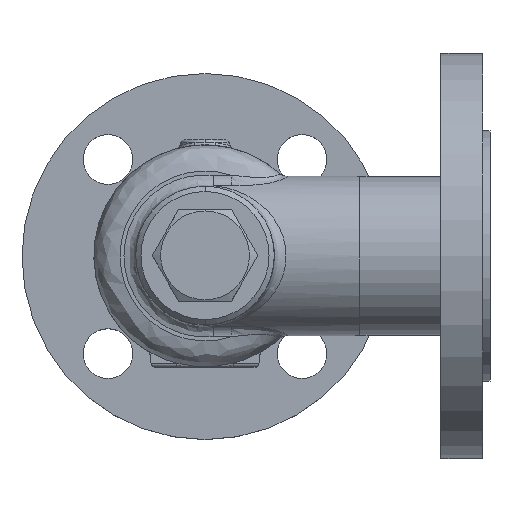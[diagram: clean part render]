
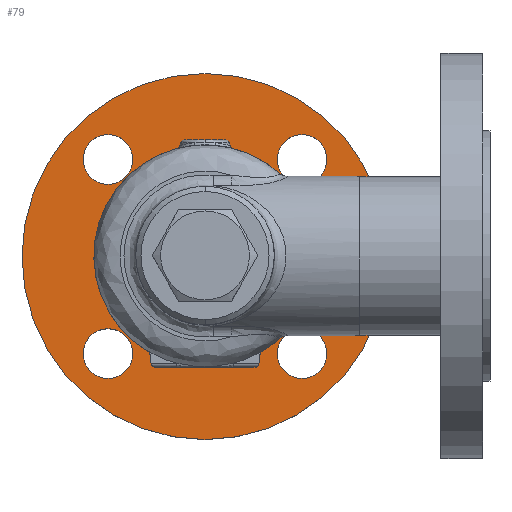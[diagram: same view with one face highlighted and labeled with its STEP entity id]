
A CAD part, top view. The second image highlights one B-rep face of the part: STEP entity #79.
In plain terms, the highlighted planar face has unit normal (0, 0, 1) as drawn and (0, 1, 0) by its records, which use the part's own axes.
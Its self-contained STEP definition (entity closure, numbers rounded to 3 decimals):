
#79=ADVANCED_FACE('',(#251,#252,#253,#254,#255,#256),#250,.T.);
#250=PLANE('',#1549);
#251=FACE_OUTER_BOUND('',#1550,.T.);
#252=FACE_BOUND('',#1551,.T.);
#253=FACE_BOUND('',#1552,.T.);
#254=FACE_BOUND('',#1553,.T.);
#255=FACE_BOUND('',#1554,.T.);
#256=FACE_BOUND('',#1555,.T.);
#1546=CARTESIAN_POINT('',(-131.244,-118.,-150.));
#1547=DIRECTION('',(0.,1.,0.));
#1548=DIRECTION('',(0.,0.,1.));
#1549=AXIS2_PLACEMENT_3D('',#1546,#1547,#1548);
#1550=EDGE_LOOP('',(#3613,#3614));
#1551=EDGE_LOOP('',(#3615,#3616));
#1552=EDGE_LOOP('',(#3617,#3618));
#1553=EDGE_LOOP('',(#3619,#3620));
#1554=EDGE_LOOP('',(#3621,#3622));
#1555=EDGE_LOOP('',(#3623,#3624));
#3613=ORIENTED_EDGE('',*,*,#4258,.T.);
#3614=ORIENTED_EDGE('',*,*,#4259,.T.);
#3615=ORIENTED_EDGE('',*,*,#4260,.F.);
#3616=ORIENTED_EDGE('',*,*,#4261,.F.);
#3617=ORIENTED_EDGE('',*,*,#4262,.F.);
#3618=ORIENTED_EDGE('',*,*,#4263,.F.);
#3619=ORIENTED_EDGE('',*,*,#4264,.F.);
#3620=ORIENTED_EDGE('',*,*,#4265,.F.);
#3621=ORIENTED_EDGE('',*,*,#4266,.F.);
#3622=ORIENTED_EDGE('',*,*,#4267,.F.);
#3623=ORIENTED_EDGE('',*,*,#4268,.F.);
#3624=ORIENTED_EDGE('',*,*,#4269,.F.);
#4258=EDGE_CURVE('',#4730,#4731,#4732,.T.);
#4259=EDGE_CURVE('',#4731,#4730,#4738,.T.);
#4260=EDGE_CURVE('',#4744,#4745,#4746,.T.);
#4261=EDGE_CURVE('',#4745,#4744,#4752,.T.);
#4262=EDGE_CURVE('',#4758,#4759,#4760,.T.);
#4263=EDGE_CURVE('',#4759,#4758,#4766,.T.);
#4264=EDGE_CURVE('',#4772,#4773,#4774,.T.);
#4265=EDGE_CURVE('',#4773,#4772,#4780,.T.);
#4266=EDGE_CURVE('',#4786,#4787,#4788,.T.);
#4267=EDGE_CURVE('',#4787,#4786,#4794,.T.);
#4268=EDGE_CURVE('',#4800,#4801,#4802,.T.);
#4269=EDGE_CURVE('',#4801,#4800,#4808,.T.);
#4730=VERTEX_POINT('',#6839);
#4731=VERTEX_POINT('',#6840);
#4732=CIRCLE('',#6844,70.);
#4738=CIRCLE('',#6848,70.);
#4744=VERTEX_POINT('',#6849);
#4745=VERTEX_POINT('',#6850);
#4746=CIRCLE('',#6854,9.5);
#4752=CIRCLE('',#6858,9.5);
#4758=VERTEX_POINT('',#6859);
#4759=VERTEX_POINT('',#6860);
#4760=CIRCLE('',#6864,9.5);
#4766=CIRCLE('',#6868,9.5);
#4772=VERTEX_POINT('',#6869);
#4773=VERTEX_POINT('',#6870);
#4774=CIRCLE('',#6874,9.5);
#4780=CIRCLE('',#6878,9.5);
#4786=VERTEX_POINT('',#6879);
#4787=VERTEX_POINT('',#6880);
#4788=CIRCLE('',#6884,9.5);
#4794=CIRCLE('',#6888,9.5);
#4800=VERTEX_POINT('',#6889);
#4801=VERTEX_POINT('',#6890);
#4802=CIRCLE('',#6894,24.3);
#4808=CIRCLE('',#6898,24.3);
#6839=CARTESIAN_POINT('',(0.,-118.,70.));
#6840=CARTESIAN_POINT('',(0.,-118.,-70.));
#6841=CARTESIAN_POINT('',(0.,-118.,0.));
#6842=DIRECTION('',(0.,1.,0.));
#6843=DIRECTION('',(0.,0.,1.));
#6844=AXIS2_PLACEMENT_3D('',#6841,#6842,#6843);
#6845=CARTESIAN_POINT('',(0.,-118.,0.));
#6846=DIRECTION('',(0.,1.,0.));
#6847=DIRECTION('',(0.,0.,1.));
#6848=AXIS2_PLACEMENT_3D('',#6845,#6846,#6847);
#6849=CARTESIAN_POINT('',(37.123,-118.,-46.623));
#6850=CARTESIAN_POINT('',(37.123,-118.,-27.623));
#6851=CARTESIAN_POINT('',(37.123,-118.,-37.123));
#6852=DIRECTION('',(0.,1.,0.));
#6853=DIRECTION('',(0.,0.,1.));
#6854=AXIS2_PLACEMENT_3D('',#6851,#6852,#6853);
#6855=CARTESIAN_POINT('',(37.123,-118.,-37.123));
#6856=DIRECTION('',(0.,1.,0.));
#6857=DIRECTION('',(0.,0.,1.));
#6858=AXIS2_PLACEMENT_3D('',#6855,#6856,#6857);
#6859=CARTESIAN_POINT('',(37.123,-118.,27.623));
#6860=CARTESIAN_POINT('',(37.123,-118.,46.623));
#6861=CARTESIAN_POINT('',(37.123,-118.,37.123));
#6862=DIRECTION('',(0.,1.,0.));
#6863=DIRECTION('',(0.,0.,1.));
#6864=AXIS2_PLACEMENT_3D('',#6861,#6862,#6863);
#6865=CARTESIAN_POINT('',(37.123,-118.,37.123));
#6866=DIRECTION('',(0.,1.,0.));
#6867=DIRECTION('',(0.,0.,1.));
#6868=AXIS2_PLACEMENT_3D('',#6865,#6866,#6867);
#6869=CARTESIAN_POINT('',(-37.123,-118.,27.623));
#6870=CARTESIAN_POINT('',(-37.123,-118.,46.623));
#6871=CARTESIAN_POINT('',(-37.123,-118.,37.123));
#6872=DIRECTION('',(0.,1.,0.));
#6873=DIRECTION('',(0.,0.,1.));
#6874=AXIS2_PLACEMENT_3D('',#6871,#6872,#6873);
#6875=CARTESIAN_POINT('',(-37.123,-118.,37.123));
#6876=DIRECTION('',(0.,1.,0.));
#6877=DIRECTION('',(0.,0.,1.));
#6878=AXIS2_PLACEMENT_3D('',#6875,#6876,#6877);
#6879=CARTESIAN_POINT('',(-37.123,-118.,-46.623));
#6880=CARTESIAN_POINT('',(-37.123,-118.,-27.623));
#6881=CARTESIAN_POINT('',(-37.123,-118.,-37.123));
#6882=DIRECTION('',(0.,1.,0.));
#6883=DIRECTION('',(0.,0.,1.));
#6884=AXIS2_PLACEMENT_3D('',#6881,#6882,#6883);
#6885=CARTESIAN_POINT('',(-37.123,-118.,-37.123));
#6886=DIRECTION('',(0.,1.,0.));
#6887=DIRECTION('',(0.,0.,1.));
#6888=AXIS2_PLACEMENT_3D('',#6885,#6886,#6887);
#6889=CARTESIAN_POINT('',(0.,-118.,-24.3));
#6890=CARTESIAN_POINT('',(0.,-118.,24.3));
#6891=CARTESIAN_POINT('',(0.,-118.,0.));
#6892=DIRECTION('',(0.,1.,0.));
#6893=DIRECTION('',(0.,0.,1.));
#6894=AXIS2_PLACEMENT_3D('',#6891,#6892,#6893);
#6895=CARTESIAN_POINT('',(0.,-118.,0.));
#6896=DIRECTION('',(0.,1.,0.));
#6897=DIRECTION('',(0.,0.,1.));
#6898=AXIS2_PLACEMENT_3D('',#6895,#6896,#6897);
